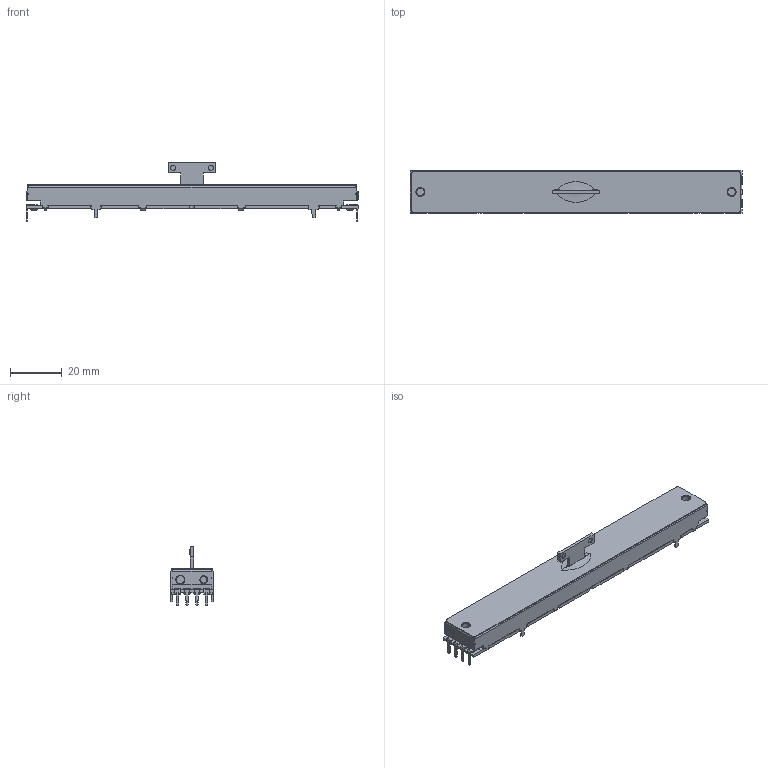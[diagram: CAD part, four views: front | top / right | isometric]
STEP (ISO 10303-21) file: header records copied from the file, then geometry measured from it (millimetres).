
FILE_DESCRIPTION(('FreeCAD Model'),'2;1');
FILE_NAME('Open CASCADE Shape Model','2023-03-16T16:13:47',(''),(''), 'Open CASCADE STEP processor 7.6','FreeCAD','Unknown');
FILE_SCHEMA(('AUTOMOTIVE_DESIGN { 1 0 10303 214 1 1 1 1 }'));
Products named in the file (1): Fusion031011
Bounding box: 128 x 16.5 x 22.7 mm (x, y, z)
Volume: 18505.5 mm3; surface area: 16463.7 mm2
Topology: 5 solids, 5 shells, 907 faces, 2338 edges, 1434 vertices
Faces by surface type: plane 667, cylinder 200, extrusion 16, cone 10, bspline 10, revolution 4
Full cylindrical faces by diameter (mm): 0.5 x18, 1.5 x2, 2 x4, 3 x4, 3.5 x4
Entity records: 66113 total; most frequent: CARTESIAN_POINT 17525, DIRECTION 6926, ORIENTED_EDGE 5044, PCURVE 4676, DEFINITIONAL_REPRESENTATION 4676, VECTOR 4134, LINE 4118, EDGE_CURVE 2338
